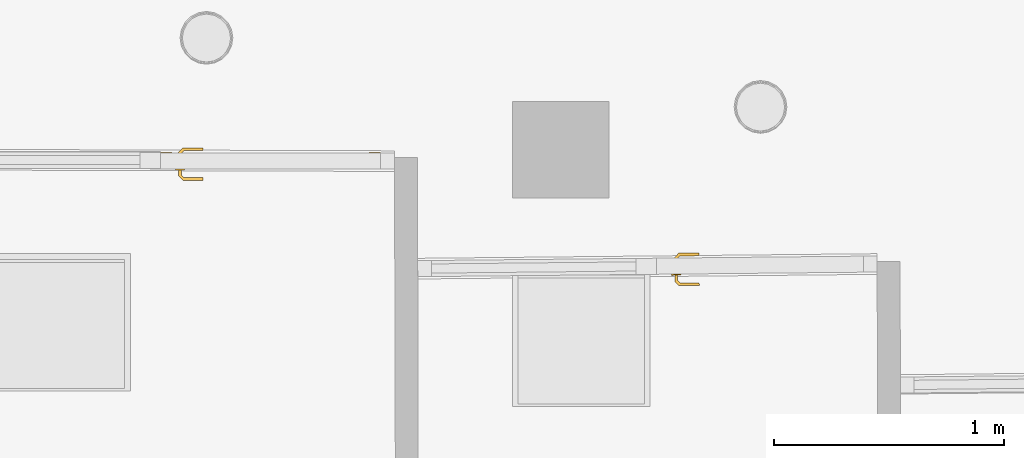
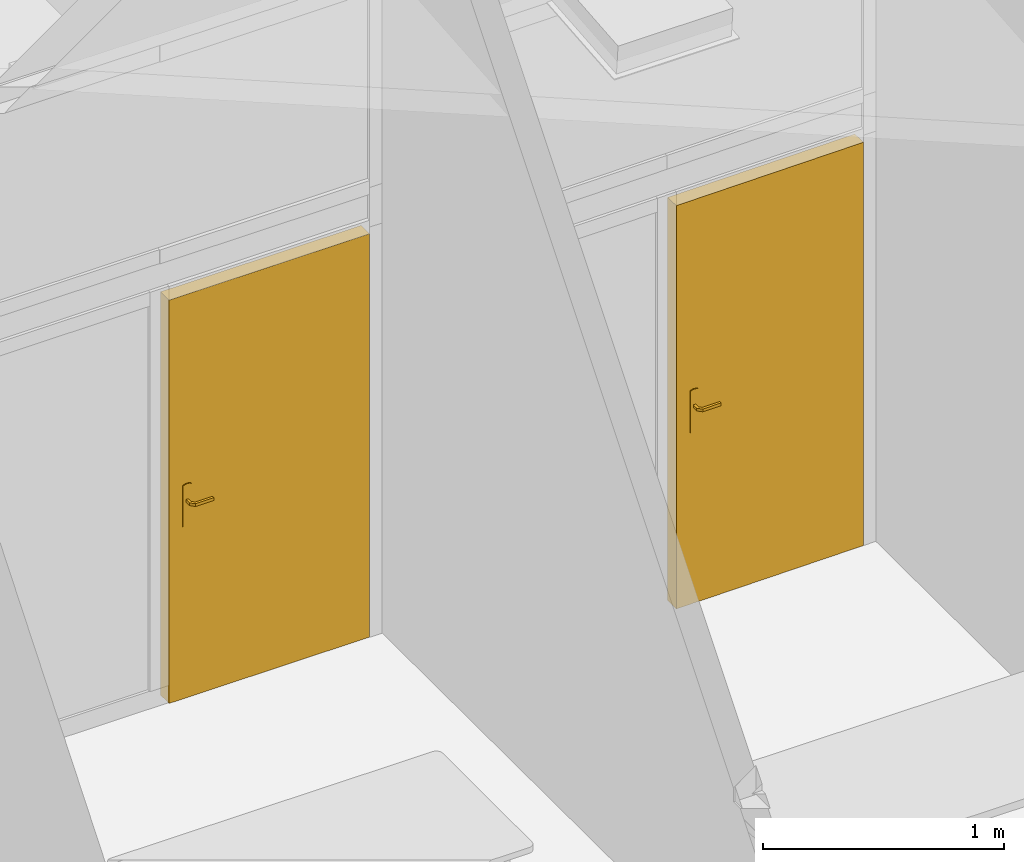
# One storey, part 54 of 128: 2 doors, 2 elements without a shape of their own.
"""IFC2X3 building model written with IfcOpenShell, lengths in metres."""

from ifc_helpers import new_model, entity, si_unit, converted_unit, derived_unit, direction, frame, origin, place, context, subcontext, project, spatial, faceted_brep, source, transform, mapped, material, type_object, type_shapes, element, aggregate, save


model = new_model("IFC2X3")

# Units and contexts
model_context = context("Model", 3, precision=1e-05, world=origin(), true_north=direction((6.123031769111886e-17, 1.0)))
body_context = subcontext(model_context, "Body", "Model", "MODEL_VIEW")
ifc_project = project(units=[si_unit("LENGTHUNIT", "METRE"), si_unit("AREAUNIT", "SQUARE_METRE"), converted_unit("PLANEANGLEUNIT", "DEGREE", entity("IfcPlaneAngleMeasure", 0.017453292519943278), si_unit("PLANEANGLEUNIT", "RADIAN"), dimensions=[0, 0, 0, 0, 0, 0, 0]), derived_unit("THERMALTRANSMITTANCEUNIT", [(si_unit("MASSUNIT", "GRAM", prefix="KILO"), 1), (si_unit("THERMODYNAMICTEMPERATUREUNIT", "KELVIN"), -1), (si_unit("TIMEUNIT", "SECOND"), -3)])], contexts=[model_context])

# Site, building, storey
site_placement = place(None, origin())
site = spatial("IfcSite", under=ifc_project, at=site_placement, Name="Default", CompositionType="ELEMENT")
building_placement = place(site_placement, origin())
building = spatial("IfcBuilding", under=site, at=building_placement, CompositionType="ELEMENT")
storey_placement = place(building_placement, origin())
storey = spatial("IfcBuildingStorey", under=building, at=storey_placement, Name="00_RDC CAF", CompositionType="ELEMENT", Elevation=2.4982504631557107e-13)

# Curtain wall, door
curtain_wall_type = type_object("IfcCurtainWallType", Name="Mur-rideau:M.Ri_Vitre_40mm_Montant_70X90mm", PredefinedType="NOTDEFINED")
curtain_wall_1_placement = place(storey_placement, origin())
curtain_wall_1 = element("IfcCurtainWall", 1, at=curtain_wall_1_placement, inside=storey, type_object=curtain_wall_type, Name="Mur-rideau:M.Ri_Vitre_40mm_Montant_70X90mm", ObjectType="Mur-rideau:M.Ri_Vitre_40mm_Montant_70X90mm")
ifc_material = material(Name="ARC - M.In - Blanc")
door_style_1 = type_object("IfcDoorStyle", Name="P_Ri_Simple:P_M-Ri_Int_Simple_Pleine_40mm", ConstructionType="NOTDEFINED", OperationType="SINGLE_SWING_LEFT", ParameterTakesPrecedence=False, Sizeable=False, material=ifc_material)
shared_shape_1 = source(origin(), body_context, "Body", "Brep", [
    faceted_brep([(0.36338370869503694, 0.03999999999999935, 0.9922195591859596), (0.3674343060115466, 0.03999999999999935, 0.992219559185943), (0.37140900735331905, 0.03999999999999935, 0.9929999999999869), (0.3714090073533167, 0.03999999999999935, 1.0070000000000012), (0.36743430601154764, 0.03999999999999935, 1.007780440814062), (0.36338370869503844, 0.03999999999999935, 1.007780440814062), (0.3594090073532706, 0.03999999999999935, 1.007000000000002), (0.35940900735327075, 0.03999999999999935, 0.9930000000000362), (0.35940900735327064, 0.062485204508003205, 0.9930000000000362), (0.3594090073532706, 0.06248520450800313, 1.007000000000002), (0.36338370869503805, 0.06413157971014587, 1.007780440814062), (0.3674343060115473, 0.06580939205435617, 1.007780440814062), (0.35124791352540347, 0.08199578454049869, 1.007780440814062), (0.34957010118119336, 0.07794518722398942, 1.007780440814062), (0.37140900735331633, 0.06745576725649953, 1.0070000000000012), (0.3714090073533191, 0.06745576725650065, 0.9929999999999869), (0.36743430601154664, 0.06580939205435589, 0.992219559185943), (0.363383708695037, 0.06413157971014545, 0.9922195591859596), (0.34957010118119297, 0.07794518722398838, 0.9922195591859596), (0.3512479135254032, 0.08199578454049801, 0.992219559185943), (0.34792372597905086, 0.07397048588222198, 0.9930000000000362), (0.34792372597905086, 0.07397048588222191, 1.007000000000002), (0.3528942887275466, 0.08597048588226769, 1.0070000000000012), (0.3528942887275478, 0.08597048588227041, 0.9929999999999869), (0.2653632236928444, 0.07794518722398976, 1.0077804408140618), (0.2653632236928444, 0.08199578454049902, 1.0077804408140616), (0.2653632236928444, 0.08597048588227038, 1.0070000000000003), (0.2653632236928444, 0.08597048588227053, 0.9929999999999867), (0.2653632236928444, 0.08199578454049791, 0.9922195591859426), (0.2653632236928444, 0.07794518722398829, 0.9922195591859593), (0.2653632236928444, 0.07397048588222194, 0.9930000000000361), (0.2653632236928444, 0.07397048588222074, 1.0070000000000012), (0.30664347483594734, 0.07397048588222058, 1.0070000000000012), (0.3066434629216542, 0.07397048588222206, 0.9930000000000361), (0.30746666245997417, 0.07997048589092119, 1.007878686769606), (0.3129638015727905, 0.0859704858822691, 1.0070000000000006), (0.31296379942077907, 0.08597048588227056, 0.9929999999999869), (0.3074666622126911, 0.07997048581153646, 0.9921213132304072)], [[[0, 1, 2, 3, 4, 5, 6, 7]], [[8, 7, 6, 9]], [[5, 10, 9, 6]], [[5, 4, 11, 12, 13, 10]], [[3, 14, 11, 4]], [[14, 3, 2, 15]], [[2, 1, 16, 15]], [[1, 0, 17, 18, 19, 16]], [[0, 7, 8, 17]], [[20, 8, 9, 21]], [[9, 10, 13, 21]], [[14, 22, 12, 11]], [[22, 14, 15, 23]], [[15, 16, 19, 23]], [[17, 8, 20, 18]], [[24, 25, 26, 27, 28, 29, 30, 31]], [[21, 32, 31, 30, 33, 20]], [[34, 24, 32]], [[25, 34, 35]], [[13, 32, 21]], [[24, 31, 32]], [[25, 35, 26]], [[35, 12, 22]], [[34, 12, 35]], [[34, 13, 12]], [[34, 32, 13]], [[24, 34, 25]], [[22, 23, 36, 27, 26, 35]], [[37, 28, 36]], [[36, 28, 27]], [[36, 23, 19]], [[18, 33, 37]], [[33, 18, 20]], [[30, 29, 33]], [[37, 29, 28]], [[37, 33, 29]], [[37, 36, 19]], [[18, 37, 19]]]),
    faceted_brep([(0.3633837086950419, -0.010000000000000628, 1.007780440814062), (0.36743430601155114, -0.010000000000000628, 1.0077804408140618), (0.3714090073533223, -0.010000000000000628, 1.0069999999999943), (0.3714090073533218, -0.010000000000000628, 0.9929999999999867), (0.3674343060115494, -0.010000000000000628, 0.9922195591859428), (0.36338370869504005, -0.010000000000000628, 0.9922195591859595), (0.35940900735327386, -0.010000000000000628, 0.9930000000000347), (0.35940900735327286, -0.010000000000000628, 1.0070000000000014), (0.3674343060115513, -0.036004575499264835, 1.0077804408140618), (0.371409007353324, -0.037650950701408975, 1.007), (0.3633837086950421, -0.03432676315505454, 1.007780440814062), (0.34970760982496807, -0.04800286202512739, 1.007780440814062), (0.35138542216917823, -0.05205345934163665, 1.0077804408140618), (0.3594090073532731, -0.03268038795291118, 1.0070000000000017), (0.35940900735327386, -0.0326803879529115, 0.9930000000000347), (0.36338370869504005, -0.034326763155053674, 0.9922195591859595), (0.3674343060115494, -0.03600457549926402, 0.9922195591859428), (0.3513854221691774, -0.05205345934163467, 0.9922195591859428), (0.3497076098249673, -0.048002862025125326, 0.9922195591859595), (0.3714090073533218, -0.03765095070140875, 0.9929999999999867), (0.35303179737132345, -0.056028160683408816, 1.007), (0.3480612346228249, -0.04402816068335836, 1.0070000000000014), (0.34806123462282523, -0.044028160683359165, 0.9930000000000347), (0.353031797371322, -0.056028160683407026, 0.9929999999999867), (0.26539036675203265, -0.05602816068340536, 1.0070000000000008), (0.26539036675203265, -0.05205345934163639, 1.0077804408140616), (0.26539036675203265, -0.048002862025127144, 1.0077804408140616), (0.26539036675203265, -0.0440281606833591, 1.0069999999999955), (0.26539036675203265, -0.044028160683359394, 0.9930000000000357), (0.26539036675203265, -0.04800286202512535, 0.9922195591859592), (0.26539036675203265, -0.05205345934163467, 0.9922195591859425), (0.26539036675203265, -0.05602816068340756, 0.9929999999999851), (0.30754898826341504, -0.05002816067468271, 1.0078786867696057), (0.3131013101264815, -0.05602816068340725, 1.0070000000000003), (0.30672580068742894, -0.04402816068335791, 1.0070000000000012), (0.306725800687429, -0.04402816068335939, 0.993000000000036), (0.3075489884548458, -0.05002816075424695, 0.9921213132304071), (0.3131012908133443, -0.05602816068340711, 0.9929999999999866)], [[[0, 1, 2, 3, 4, 5, 6, 7]], [[2, 1, 8, 9]], [[1, 0, 10, 11, 12, 8]], [[0, 7, 13, 10]], [[13, 7, 6, 14]], [[5, 15, 14, 6]], [[5, 4, 16, 17, 18, 15]], [[3, 19, 16, 4]], [[9, 19, 3, 2]], [[9, 8, 12, 20]], [[10, 13, 21, 11]], [[21, 13, 14, 22]], [[14, 15, 18, 22]], [[16, 19, 23, 17]], [[20, 23, 19, 9]], [[24, 25, 26, 27, 28, 29, 30, 31]], [[32, 25, 33]], [[33, 25, 24]], [[33, 20, 12]], [[11, 34, 32]], [[34, 11, 21]], [[27, 26, 34]], [[32, 26, 25]], [[32, 34, 26]], [[32, 33, 12]], [[11, 32, 12]], [[22, 35, 28, 27, 34, 21]], [[36, 29, 35]], [[30, 36, 37]], [[18, 35, 22]], [[29, 28, 35]], [[30, 37, 31]], [[37, 17, 23]], [[36, 17, 37]], [[36, 18, 17]], [[36, 35, 18]], [[29, 36, 30]], [[23, 20, 33, 24, 31, 37]]]),
    faceted_brep([(0.3854090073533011, 0.0349999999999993, 0.8700000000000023), (0.38540900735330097, 0.0349999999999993, 1.0800000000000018), (0.3757617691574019, 0.03499999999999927, 1.083996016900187), (0.3654090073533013, 0.03499999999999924, 1.0853589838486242), (0.3550562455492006, 0.034999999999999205, 1.083996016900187), (0.34540900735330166, 0.03499999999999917, 1.0800000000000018), (0.34540900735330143, 0.03499999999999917, 0.8700000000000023), (0.35505624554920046, 0.034999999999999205, 0.8660039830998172), (0.3654090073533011, 0.03499999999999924, 0.8646410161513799), (0.37576176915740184, 0.03499999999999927, 0.866003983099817), (0.38540900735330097, 0.03999999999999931, 1.0800000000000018), (0.38540900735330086, 0.03999999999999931, 0.8700000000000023), (0.37576176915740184, 0.03999999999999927, 0.866003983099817), (0.3654090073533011, 0.03999999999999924, 0.8646410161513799), (0.35505624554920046, 0.0399999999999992, 0.8660039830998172), (0.34540900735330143, 0.03999999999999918, 0.8700000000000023), (0.34540900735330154, 0.03999999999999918, 1.0800000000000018), (0.3550562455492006, 0.0399999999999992, 1.083996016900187), (0.3654090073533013, 0.03999999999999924, 1.0853589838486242), (0.3757617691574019, 0.03999999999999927, 1.083996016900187)], [[[0, 1, 2, 3, 4, 5, 6, 7, 8, 9]], [[10, 11, 12, 13, 14, 15, 16, 17, 18, 19]], [[4, 17, 16, 5]], [[3, 18, 17, 4]], [[2, 19, 18, 3]], [[2, 1, 10, 19]], [[10, 1, 0, 11]], [[9, 12, 11, 0]], [[8, 13, 12, 9]], [[7, 14, 13, 8]], [[7, 6, 15, 14]], [[15, 6, 5, 16]]]),
    faceted_brep([(0.36540900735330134, -0.010000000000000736, 0.8646410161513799), (0.37576176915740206, -0.010000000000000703, 0.8660039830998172), (0.38540900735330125, -0.010000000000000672, 0.8700000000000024), (0.3854090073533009, -0.010000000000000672, 1.080000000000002), (0.3757617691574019, -0.010000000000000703, 1.083996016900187), (0.36540900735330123, -0.010000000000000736, 1.0853589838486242), (0.35505624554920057, -0.01000000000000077, 1.083996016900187), (0.3454090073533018, -0.0100000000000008, 1.0800000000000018), (0.34540900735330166, -0.0100000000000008, 0.8700000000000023), (0.3550562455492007, -0.01000000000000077, 0.866003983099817), (0.38540900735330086, -0.005000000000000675, 1.080000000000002), (0.38540900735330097, -0.005000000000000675, 0.8700000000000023), (0.375761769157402, -0.005000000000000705, 0.8660039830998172), (0.3654090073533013, -0.005000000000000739, 0.8646410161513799), (0.35505624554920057, -0.005000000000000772, 0.866003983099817), (0.34540900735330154, -0.005000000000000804, 0.8700000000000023), (0.3454090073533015, -0.005000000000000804, 1.0800000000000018), (0.3550562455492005, -0.005000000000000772, 1.083996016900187), (0.3654090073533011, -0.005000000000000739, 1.0853589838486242), (0.37576176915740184, -0.005000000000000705, 1.083996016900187)], [[[0, 1, 2, 3, 4, 5, 6, 7, 8, 9]], [[10, 11, 12, 13, 14, 15, 16, 17, 18, 19]], [[1, 12, 11, 2]], [[0, 13, 12, 1]], [[9, 14, 13, 0]], [[9, 8, 15, 14]], [[15, 8, 7, 16]], [[6, 17, 16, 7]], [[5, 18, 17, 6]], [[4, 19, 18, 5]], [[4, 3, 10, 19]], [[10, 3, 2, 11]]]),
    faceted_brep([(0.41540900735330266, -0.004999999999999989, 2.0049999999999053), (0.41540900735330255, 0.03500000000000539, 2.0049999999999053), (-0.4154090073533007, 0.03500000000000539, 2.0049999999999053), (-0.4154090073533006, -0.004999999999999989, 2.0049999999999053), (0.41540900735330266, -0.004999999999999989, 0.0), (-0.4154090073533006, -0.004999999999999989, 0.0), (-0.4154090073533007, 0.03500000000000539, 0.0), (0.41540900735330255, 0.03500000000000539, 0.0)], [[[0, 1, 2, 3]], [[4, 5, 6, 7]], [[1, 0, 4, 7]], [[2, 1, 7, 6]], [[3, 2, 6, 5]], [[0, 3, 5, 4]]]),
    faceted_brep([(-0.45040900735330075, -0.03499999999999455, 0.0), (-0.45040900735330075, 0.0350000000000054, 0.0), (-0.41540900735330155, 0.035000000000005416, 0.0), (-0.41540900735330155, -0.0049999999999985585, 0.0), (-0.4004090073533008, -0.0049999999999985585, 0.0), (-0.4004090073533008, -0.034999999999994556, 0.0), (-0.4504090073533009, -0.03499999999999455, 2.039999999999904), (-0.4504090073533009, 0.0350000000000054, 2.039999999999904), (0.4504090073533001, 0.0350000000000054, 2.0399999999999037), (0.4504090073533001, 0.0350000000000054, 0.0), (0.41540900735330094, 0.035000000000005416, 0.0), (0.415409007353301, 0.035000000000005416, 2.0049999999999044), (-0.4154090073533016, 0.035000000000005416, 2.004999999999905), (-0.4154090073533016, -0.0049999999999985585, 2.004999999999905), (0.4154090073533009, -0.0049999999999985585, 2.0049999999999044), (0.4154090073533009, -0.0049999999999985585, 0.0), (0.4004090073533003, -0.0049999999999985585, 0.0), (0.40040900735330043, -0.0049999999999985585, 1.9899999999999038), (-0.400409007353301, -0.0049999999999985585, 1.989999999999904), (-0.400409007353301, -0.034999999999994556, 1.989999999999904), (0.40040900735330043, -0.034999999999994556, 1.9899999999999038), (0.4004090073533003, -0.034999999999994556, 0.0), (0.4504090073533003, -0.034999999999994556, 0.0), (0.45040900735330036, -0.034999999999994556, 2.039999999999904)], [[[0, 1, 2, 3, 4, 5]], [[1, 0, 6, 7]], [[2, 1, 7, 8, 9, 10, 11, 12]], [[3, 2, 12, 13]], [[4, 3, 13, 14, 15, 16, 17, 18]], [[5, 4, 18, 19]], [[0, 5, 19, 20, 21, 22, 23, 6]], [[8, 23, 22, 9]], [[22, 21, 16, 15, 10, 9]], [[14, 11, 10, 15]], [[20, 17, 16, 21]], [[7, 6, 23, 8]], [[13, 12, 11, 14]], [[19, 18, 17, 20]]]),
])
type_shapes(door_style_1, [shared_shape_1])
door_1_placement = place(curtain_wall_1_placement, frame((10.600786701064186, 136.0483747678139, 0.0), z_axis=(0.0, 0.0, 1.0), x_axis=(-0.9999489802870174, -0.010101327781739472, 0.0)))
door_1 = element("IfcDoor", 2, at=door_1_placement, type_object=door_style_1, material=ifc_material, Name="P_Ri_Simple:P_M-Ri_Int_Simple_Pleine_40mm", ObjectType="P_Ri_Simple:P_M-Ri_Int_Simple_Pleine_40mm", OverallHeight=2.0399999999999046, OverallWidth=0.9008180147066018, context=body_context, shape_type="MappedRepresentation", body=[
    mapped(shared_shape_1, transform((0.0, 0.0, 0.0), scale=1.0)),
])
aggregate(curtain_wall_1, [door_1])

curtain_wall_2_placement = place(storey_placement, origin())
curtain_wall_2 = element("IfcCurtainWall", 3, at=curtain_wall_2_placement, inside=storey, type_object=curtain_wall_type, Name="Mur-rideau:M.Ri_Vitre_40mm_Montant_70X90mm", ObjectType="Mur-rideau:M.Ri_Vitre_40mm_Montant_70X90mm")
door_style_2 = type_object("IfcDoorStyle", Name="P_Ri_Simple:P_M-Ri_Int_Simple_Pleine_40mm", ConstructionType="NOTDEFINED", OperationType="SINGLE_SWING_LEFT", ParameterTakesPrecedence=False, Sizeable=False, material=ifc_material)
shared_shape_2 = source(origin(), body_context, "Body", "Brep", [
    faceted_brep([(0.3925220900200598, 0.0399999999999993, 0.9922195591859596), (0.3965726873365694, 0.0399999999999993, 0.992219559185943), (0.4005473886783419, 0.0399999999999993, 0.9929999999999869), (0.4005473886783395, 0.0399999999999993, 1.0070000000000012), (0.3965726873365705, 0.0399999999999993, 1.007780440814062), (0.3925220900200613, 0.0399999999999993, 1.007780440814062), (0.38854738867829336, 0.0399999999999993, 1.007000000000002), (0.3885473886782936, 0.0399999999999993, 0.9930000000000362), (0.3885473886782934, 0.06248520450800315, 0.9930000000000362), (0.38854738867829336, 0.06248520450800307, 1.007000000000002), (0.39252209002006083, 0.06413157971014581, 1.007780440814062), (0.39657268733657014, 0.06580939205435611, 1.007780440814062), (0.3803862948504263, 0.08199578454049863, 1.007780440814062), (0.3787084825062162, 0.07794518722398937, 1.007780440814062), (0.40054738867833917, 0.06745576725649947, 1.0070000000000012), (0.40054738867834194, 0.06745576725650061, 0.9929999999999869), (0.3965726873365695, 0.06580939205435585, 0.992219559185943), (0.39252209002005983, 0.0641315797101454, 0.9922195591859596), (0.3787084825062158, 0.07794518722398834, 0.9922195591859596), (0.380386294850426, 0.08199578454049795, 0.992219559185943), (0.3770621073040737, 0.07397048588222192, 0.9930000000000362), (0.3770621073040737, 0.07397048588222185, 1.007000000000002), (0.3820326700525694, 0.08597048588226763, 1.0070000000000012), (0.38203267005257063, 0.08597048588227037, 0.9929999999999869), (0.29450160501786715, 0.07794518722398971, 1.0077804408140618), (0.29450160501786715, 0.081995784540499, 1.0077804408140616), (0.29450160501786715, 0.08597048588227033, 1.0070000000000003), (0.2945016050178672, 0.08597048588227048, 0.9929999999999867), (0.2945016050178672, 0.08199578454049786, 0.9922195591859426), (0.2945016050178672, 0.07794518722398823, 0.9922195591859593), (0.2945016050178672, 0.07397048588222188, 0.9930000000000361), (0.29450160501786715, 0.07397048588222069, 1.0070000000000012), (0.33578185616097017, 0.07397048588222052, 1.0070000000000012), (0.33578184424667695, 0.07397048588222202, 0.9930000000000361), (0.336605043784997, 0.07997048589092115, 1.007878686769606), (0.3421021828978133, 0.08597048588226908, 1.0070000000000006), (0.3421021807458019, 0.08597048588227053, 0.9929999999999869), (0.3366050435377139, 0.07997048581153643, 0.9921213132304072)], [[[0, 1, 2, 3, 4, 5, 6, 7]], [[8, 7, 6, 9]], [[5, 10, 9, 6]], [[5, 4, 11, 12, 13, 10]], [[3, 14, 11, 4]], [[14, 3, 2, 15]], [[2, 1, 16, 15]], [[1, 0, 17, 18, 19, 16]], [[0, 7, 8, 17]], [[20, 8, 9, 21]], [[9, 10, 13, 21]], [[14, 22, 12, 11]], [[22, 14, 15, 23]], [[15, 16, 19, 23]], [[17, 8, 20, 18]], [[24, 25, 26, 27, 28, 29, 30, 31]], [[21, 32, 31, 30, 33, 20]], [[34, 24, 32]], [[25, 34, 35]], [[13, 32, 21]], [[24, 31, 32]], [[25, 35, 26]], [[35, 12, 22]], [[34, 12, 35]], [[34, 13, 12]], [[34, 32, 13]], [[24, 34, 25]], [[22, 23, 36, 27, 26, 35]], [[37, 28, 36]], [[36, 28, 27]], [[36, 23, 19]], [[18, 33, 37]], [[33, 18, 20]], [[30, 29, 33]], [[37, 29, 28]], [[37, 33, 29]], [[37, 36, 19]], [[18, 37, 19]]]),
    faceted_brep([(0.3925220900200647, -0.010000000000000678, 1.007780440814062), (0.3965726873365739, -0.010000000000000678, 1.0077804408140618), (0.40054738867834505, -0.010000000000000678, 1.0069999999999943), (0.4005473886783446, -0.010000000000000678, 0.9929999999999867), (0.39657268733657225, -0.010000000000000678, 0.9922195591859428), (0.3925220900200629, -0.010000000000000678, 0.9922195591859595), (0.3885473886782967, -0.010000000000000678, 0.9930000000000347), (0.3885473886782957, -0.010000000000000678, 1.0070000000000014), (0.39657268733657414, -0.03600457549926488, 1.0077804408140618), (0.4005473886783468, -0.037650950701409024, 1.007), (0.39252209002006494, -0.03432676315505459, 1.007780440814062), (0.3788459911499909, -0.048002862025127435, 1.007780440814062), (0.380523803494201, -0.0520534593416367, 1.0077804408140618), (0.38854738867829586, -0.03268038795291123, 1.0070000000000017), (0.3885473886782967, -0.032680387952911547, 0.9930000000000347), (0.3925220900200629, -0.03432676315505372, 0.9922195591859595), (0.39657268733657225, -0.03600457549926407, 0.9922195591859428), (0.38052380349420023, -0.05205345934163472, 0.9922195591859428), (0.37884599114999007, -0.048002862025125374, 0.9922195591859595), (0.4005473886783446, -0.0376509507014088, 0.9929999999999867), (0.38217017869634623, -0.05602816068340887, 1.007), (0.37719961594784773, -0.04402816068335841, 1.0070000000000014), (0.37719961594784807, -0.04402816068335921, 0.9930000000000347), (0.38217017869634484, -0.056028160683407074, 0.9929999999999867), (0.2945287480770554, -0.05602816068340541, 1.0070000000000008), (0.2945287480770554, -0.052053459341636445, 1.0077804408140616), (0.2945287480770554, -0.04800286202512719, 1.0077804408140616), (0.2945287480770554, -0.04402816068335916, 1.0069999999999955), (0.2945287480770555, -0.04402816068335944, 0.9930000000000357), (0.2945287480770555, -0.0480028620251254, 0.9922195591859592), (0.2945287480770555, -0.05205345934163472, 0.9922195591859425), (0.2945287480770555, -0.05602816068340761, 0.9929999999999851), (0.33668736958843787, -0.050028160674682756, 1.0078786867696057), (0.34223969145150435, -0.056028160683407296, 1.0070000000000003), (0.3358641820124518, -0.044028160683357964, 1.0070000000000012), (0.33586418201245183, -0.044028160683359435, 0.993000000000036), (0.33668736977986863, -0.050028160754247, 0.9921213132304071), (0.3422396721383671, -0.056028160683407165, 0.9929999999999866)], [[[0, 1, 2, 3, 4, 5, 6, 7]], [[2, 1, 8, 9]], [[1, 0, 10, 11, 12, 8]], [[0, 7, 13, 10]], [[13, 7, 6, 14]], [[5, 15, 14, 6]], [[5, 4, 16, 17, 18, 15]], [[3, 19, 16, 4]], [[9, 19, 3, 2]], [[9, 8, 12, 20]], [[10, 13, 21, 11]], [[21, 13, 14, 22]], [[14, 15, 18, 22]], [[16, 19, 23, 17]], [[20, 23, 19, 9]], [[24, 25, 26, 27, 28, 29, 30, 31]], [[32, 25, 33]], [[33, 25, 24]], [[33, 20, 12]], [[11, 34, 32]], [[34, 11, 21]], [[27, 26, 34]], [[32, 26, 25]], [[32, 34, 26]], [[32, 33, 12]], [[11, 32, 12]], [[22, 35, 28, 27, 34, 21]], [[36, 29, 35]], [[30, 36, 37]], [[18, 35, 22]], [[29, 28, 35]], [[30, 37, 31]], [[37, 17, 23]], [[36, 17, 37]], [[36, 18, 17]], [[36, 35, 18]], [[29, 36, 30]], [[23, 20, 33, 24, 31, 37]]]),
    faceted_brep([(0.41454738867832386, 0.034999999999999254, 0.8700000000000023), (0.4145473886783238, 0.034999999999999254, 1.0800000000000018), (0.4049001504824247, 0.03499999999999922, 1.083996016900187), (0.39454738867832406, 0.03499999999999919, 1.0853589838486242), (0.38419462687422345, 0.03499999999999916, 1.083996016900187), (0.37454738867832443, 0.03499999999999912, 1.0800000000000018), (0.3745473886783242, 0.03499999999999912, 0.8700000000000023), (0.38419462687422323, 0.03499999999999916, 0.8660039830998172), (0.39454738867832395, 0.03499999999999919, 0.8646410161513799), (0.40490015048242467, 0.03499999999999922, 0.866003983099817), (0.4145473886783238, 0.03999999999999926, 1.0800000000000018), (0.4145473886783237, 0.03999999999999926, 0.8700000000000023), (0.40490015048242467, 0.039999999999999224, 0.866003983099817), (0.39454738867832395, 0.03999999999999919, 0.8646410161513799), (0.38419462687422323, 0.039999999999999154, 0.8660039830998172), (0.3745473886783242, 0.039999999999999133, 0.8700000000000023), (0.3745473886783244, 0.039999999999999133, 1.0800000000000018), (0.38419462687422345, 0.039999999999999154, 1.083996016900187), (0.39454738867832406, 0.03999999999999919, 1.0853589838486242), (0.4049001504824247, 0.039999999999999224, 1.083996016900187)], [[[0, 1, 2, 3, 4, 5, 6, 7, 8, 9]], [[10, 11, 12, 13, 14, 15, 16, 17, 18, 19]], [[4, 17, 16, 5]], [[3, 18, 17, 4]], [[2, 19, 18, 3]], [[2, 1, 10, 19]], [[10, 1, 0, 11]], [[9, 12, 11, 0]], [[8, 13, 12, 9]], [[7, 14, 13, 8]], [[7, 6, 15, 14]], [[15, 6, 5, 16]]]),
    faceted_brep([(0.3945473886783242, -0.010000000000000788, 0.8646410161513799), (0.4049001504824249, -0.010000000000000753, 0.8660039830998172), (0.4145473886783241, -0.010000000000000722, 0.8700000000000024), (0.41454738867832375, -0.010000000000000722, 1.080000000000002), (0.4049001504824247, -0.010000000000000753, 1.083996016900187), (0.394547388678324, -0.010000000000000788, 1.0853589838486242), (0.3841946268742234, -0.01000000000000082, 1.083996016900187), (0.37454738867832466, -0.01000000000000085, 1.0800000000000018), (0.37454738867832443, -0.01000000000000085, 0.8700000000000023), (0.3841946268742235, -0.01000000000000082, 0.866003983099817), (0.4145473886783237, -0.005000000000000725, 1.080000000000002), (0.4145473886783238, -0.005000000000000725, 0.8700000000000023), (0.4049001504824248, -0.0050000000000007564, 0.8660039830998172), (0.39454738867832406, -0.00500000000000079, 0.8646410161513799), (0.3841946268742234, -0.005000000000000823, 0.866003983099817), (0.3745473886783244, -0.0050000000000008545, 0.8700000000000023), (0.3745473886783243, -0.0050000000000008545, 1.0800000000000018), (0.3841946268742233, -0.005000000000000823, 1.083996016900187), (0.39454738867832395, -0.00500000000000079, 1.0853589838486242), (0.40490015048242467, -0.0050000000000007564, 1.083996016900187)], [[[0, 1, 2, 3, 4, 5, 6, 7, 8, 9]], [[10, 11, 12, 13, 14, 15, 16, 17, 18, 19]], [[1, 12, 11, 2]], [[0, 13, 12, 1]], [[9, 14, 13, 0]], [[9, 8, 15, 14]], [[15, 8, 7, 16]], [[6, 17, 16, 7]], [[5, 18, 17, 6]], [[4, 19, 18, 5]], [[4, 3, 10, 19]], [[10, 3, 2, 11]]]),
    faceted_brep([(0.44454738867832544, -0.004999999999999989, 2.004999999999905), (0.4445473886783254, 0.03500000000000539, 2.004999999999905), (-0.44454738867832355, 0.03500000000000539, 2.004999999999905), (-0.44454738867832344, -0.004999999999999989, 2.004999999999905), (0.44454738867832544, -0.004999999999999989, 0.0), (-0.44454738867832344, -0.004999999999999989, 0.0), (-0.44454738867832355, 0.03500000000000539, 0.0), (0.4445473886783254, 0.03500000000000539, 0.0)], [[[0, 1, 2, 3]], [[4, 5, 6, 7]], [[1, 0, 4, 7]], [[2, 1, 7, 6]], [[3, 2, 6, 5]], [[0, 3, 5, 4]]]),
    faceted_brep([(-0.4795473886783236, -0.03499999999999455, 0.0), (-0.4795473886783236, 0.0350000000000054, 0.0), (-0.4445473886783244, 0.035000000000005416, 0.0), (-0.4445473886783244, -0.0049999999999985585, 0.0), (-0.42954738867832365, -0.0049999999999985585, 0.0), (-0.42954738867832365, -0.034999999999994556, 0.0), (-0.4795473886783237, -0.03499999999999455, 2.039999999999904), (-0.4795473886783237, 0.0350000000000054, 2.039999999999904), (0.4795473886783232, 0.0350000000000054, 2.039999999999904), (0.4795473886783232, 0.0350000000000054, 0.0), (0.44454738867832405, 0.035000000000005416, 0.0), (0.44454738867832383, 0.035000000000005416, 2.0049999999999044), (-0.44454738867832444, 0.035000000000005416, 2.004999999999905), (-0.44454738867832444, -0.0049999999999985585, 2.004999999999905), (0.44454738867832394, -0.0049999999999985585, 2.0049999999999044), (0.44454738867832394, -0.0049999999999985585, 0.0), (0.42954738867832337, -0.0049999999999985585, 0.0), (0.42954738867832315, -0.0049999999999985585, 1.9899999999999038), (-0.42954738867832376, -0.0049999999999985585, 1.989999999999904), (-0.42954738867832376, -0.034999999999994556, 1.989999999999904), (0.42954738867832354, -0.034999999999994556, 1.989999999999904), (0.42954738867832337, -0.034999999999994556, 0.0), (0.47954738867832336, -0.034999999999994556, 0.0), (0.4795473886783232, -0.034999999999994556, 2.039999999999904)], [[[0, 1, 2, 3, 4, 5]], [[1, 0, 6, 7]], [[2, 1, 7, 8, 9, 10, 11, 12]], [[3, 2, 12, 13]], [[4, 3, 13, 14, 15, 16, 17, 18]], [[5, 4, 18, 19]], [[0, 5, 19, 20, 21, 22, 23, 6]], [[8, 23, 22, 9]], [[22, 21, 16, 15, 10, 9]], [[14, 11, 10, 15]], [[20, 17, 16, 21]], [[7, 6, 23, 8]], [[13, 12, 11, 14]], [[19, 18, 17, 20]]]),
])
type_shapes(door_style_2, [shared_shape_2])
door_2_placement = place(curtain_wall_2_placement, frame((8.468906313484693, 136.50358606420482, 0.0), z_axis=(0.0, 0.0, 1.0), x_axis=(-1.0, 0.0, 0.0)))
door_2 = element("IfcDoor", 4, at=door_2_placement, type_object=door_style_2, material=ifc_material, Name="P_Ri_Simple:P_M-Ri_Int_Simple_Pleine_40mm", ObjectType="P_Ri_Simple:P_M-Ri_Int_Simple_Pleine_40mm", OverallHeight=2.039999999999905, OverallWidth=0.9590947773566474, context=body_context, shape_type="MappedRepresentation", body=[
    mapped(shared_shape_2, transform((0.0, 0.0, 0.0), scale=1.0)),
])
aggregate(curtain_wall_2, [door_2])

save(model, "model.ifc")
